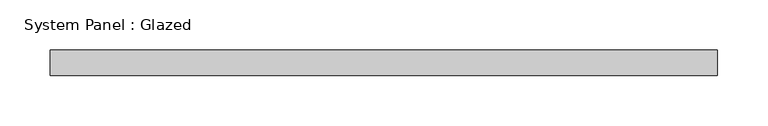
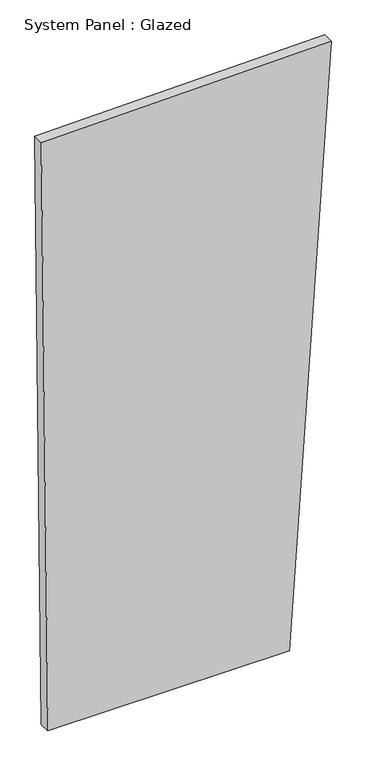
"""IFC4 building model written with IfcOpenShell, lengths in millimetres: plate geometry, System Panel : Glazed."""

from ifc_helpers import new_model, si_unit, frame, origin, place, context, project, spatial, polyline, outline, extrude, source, transform, mapped, element, save


def system_panel_glazed_dcd4434c(model_context):
    return source(origin(), model_context, "Body", "SweptSolid", [
        extrude(outline(polyline([(0.0, -316.6218884), (0.0, 236.0637857), (1439.3953384, 331.6429924), (1426.5056003, -331.6429924), (0.0, -316.6218884)])), frame((0.0, -44.45, 0.0), z_axis=(0.0, 1.0, 0.0), x_axis=(0.0, 0.0, 1.0)), (0.0, 0.0, 1.0), 25.4),
    ])


if __name__ == "__main__":
    model = new_model("IFC4")
    model_context = context("Model", 3, world=origin())
    ifc_project = project(units=[si_unit("LENGTHUNIT", "METRE", prefix="MILLI")], contexts=[model_context])
    site = spatial("IfcSite", under=ifc_project)
    building = spatial("IfcBuilding", under=site)
    placement = place(None, origin())
    system_panel_glazed_shape = system_panel_glazed_dcd4434c(model_context)
    element("IfcPlate", 1, ObjectType="System Panel : Glazed", at=placement, inside=building, context=model_context, shape_type="MappedRepresentation", body=[
        mapped(system_panel_glazed_shape, transform((0.0, 0.0, 0.0), x_axis=(1.0, 0.0, 0.0), y_axis=(0.0, 1.0, 0.0), z_axis=(0.0, 0.0, 1.0))),
    ])
    save(model, "model.ifc")
